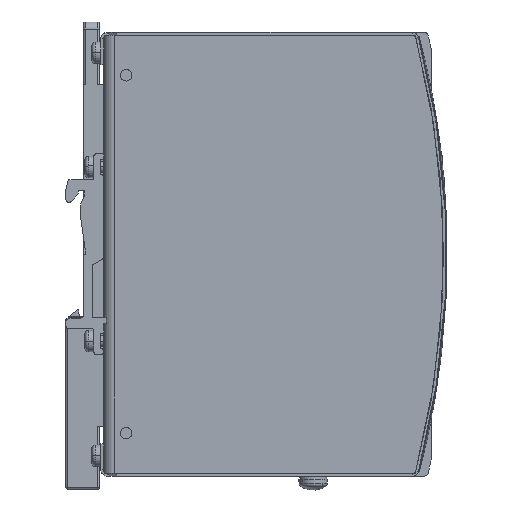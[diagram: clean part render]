
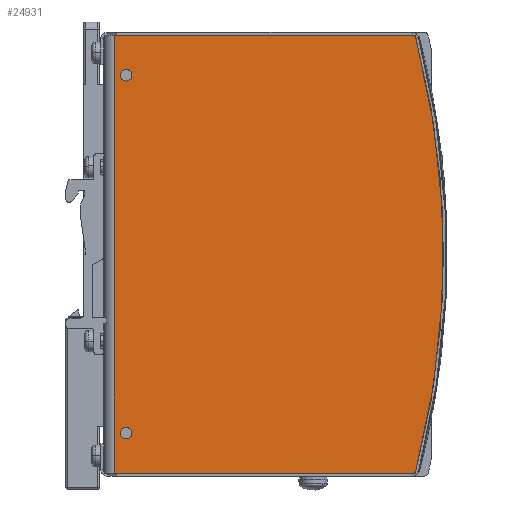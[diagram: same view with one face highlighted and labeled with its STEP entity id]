
A CAD part, left-side view. The second image highlights one B-rep face of the part: STEP entity #24931.
In plain terms, the highlighted planar face has unit normal (-1, 0, 0).
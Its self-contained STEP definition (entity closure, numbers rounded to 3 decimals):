
#3809 = CARTESIAN_POINT ( 'NONE',  ( -16., -87.079, 61.15 ) ) ;
#5927 = CIRCLE ( 'NONE', #70968, 240. ) ;
#6297 = CARTESIAN_POINT ( 'NONE',  ( -16., -3., -61.15 ) ) ;
#6685 = AXIS2_PLACEMENT_3D ( 'NONE', #13069, #47346, #31693 ) ;
#6687 = CARTESIAN_POINT ( 'NONE',  ( -16., -3., -61.15 ) ) ;
#6869 = EDGE_CURVE ( 'NONE', #26593, #56769, #58530, .T. ) ;
#7676 = CARTESIAN_POINT ( 'NONE',  ( -16., -4.7, -50. ) ) ;
#8883 = ORIENTED_EDGE ( 'NONE', *, *, #39230, .F. ) ;
#11220 = VERTEX_POINT ( 'NONE', #24990 ) ;
#13069 = CARTESIAN_POINT ( 'NONE',  ( -16., -6.3, 50. ) ) ;
#13795 = EDGE_CURVE ( 'NONE', #56769, #42908, #5927, .T. ) ;
#14753 = DIRECTION ( 'NONE',  ( 1., 0., 0. ) ) ;
#22720 = VERTEX_POINT ( 'NONE', #6687 ) ;
#24931 = ADVANCED_FACE ( 'NONE', ( #58345, #93902, #74678 ), #32779, .T. ) ;
#24974 = EDGE_CURVE ( 'NONE', #59923, #39348, #110680, .T. ) ;
#24990 = CARTESIAN_POINT ( 'NONE',  ( -16., -4.7, 50. ) ) ;
#26593 = VERTEX_POINT ( 'NONE', #69859 ) ;
#29453 = AXIS2_PLACEMENT_3D ( 'NONE', #94521, #14753, #49633 ) ;
#31084 = CARTESIAN_POINT ( 'NONE',  ( -16., -95., 0. ) ) ;
#31693 = DIRECTION ( 'NONE',  ( 0., 1., 0. ) ) ;
#31924 = VECTOR ( 'NONE', #93305, 1000. ) ;
#32359 = VERTEX_POINT ( 'NONE', #50376 ) ;
#32779 = PLANE ( 'NONE',  #80905 ) ;
#33742 = CARTESIAN_POINT ( 'NONE',  ( -16., -3., 61.15 ) ) ;
#33845 = DIRECTION ( 'NONE',  ( 1., 0., 0. ) ) ;
#35519 = CARTESIAN_POINT ( 'NONE',  ( -16., -6.3, -50. ) ) ;
#37207 = VECTOR ( 'NONE', #58758, 1000. ) ;
#38122 = AXIS2_PLACEMENT_3D ( 'NONE', #88080, #43720, #61772 ) ;
#38544 = ORIENTED_EDGE ( 'NONE', *, *, #83240, .F. ) ;
#38783 = EDGE_CURVE ( 'NONE', #32359, #11220, #114630, .T. ) ;
#39230 = EDGE_CURVE ( 'NONE', #26593, #22720, #57133, .T. ) ;
#39261 = CIRCLE ( 'NONE', #109978, 1.6 ) ;
#39348 = VERTEX_POINT ( 'NONE', #79267 ) ;
#39546 = ORIENTED_EDGE ( 'NONE', *, *, #101505, .T. ) ;
#40634 = LINE ( 'NONE', #6297, #81599 ) ;
#42243 = CARTESIAN_POINT ( 'NONE',  ( -16., 145., 0. ) ) ;
#42908 = VERTEX_POINT ( 'NONE', #3809 ) ;
#43704 = AXIS2_PLACEMENT_3D ( 'NONE', #35519, #103818, #51331 ) ;
#43720 = DIRECTION ( 'NONE',  ( -1., 0., 0. ) ) ;
#45690 = ORIENTED_EDGE ( 'NONE', *, *, #88827, .F. ) ;
#47346 = DIRECTION ( 'NONE',  ( 1., 0., 0. ) ) ;
#48251 = EDGE_LOOP ( 'NONE', ( #80505, #39546 ) ) ;
#49218 = DIRECTION ( 'NONE',  ( 0., 0.967, -0.255 ) ) ;
#49633 = DIRECTION ( 'NONE',  ( 0., 1., 0. ) ) ;
#49873 = CIRCLE ( 'NONE', #29453, 1.6 ) ;
#50376 = CARTESIAN_POINT ( 'NONE',  ( -16., -7.9, 50. ) ) ;
#51331 = DIRECTION ( 'NONE',  ( 0., 1., 0. ) ) ;
#56769 = VERTEX_POINT ( 'NONE', #31084 ) ;
#57133 = LINE ( 'NONE', #92731, #31924 ) ;
#58345 = FACE_BOUND ( 'NONE', #48251, .T. ) ;
#58530 = CIRCLE ( 'NONE', #38122, 240. ) ;
#58758 = DIRECTION ( 'NONE',  ( 0., -1., 0. ) ) ;
#59923 = VERTEX_POINT ( 'NONE', #7676 ) ;
#61772 = DIRECTION ( 'NONE',  ( 0., 0.967, -0.255 ) ) ;
#65904 = DIRECTION ( 'NONE',  ( 0., 0., -1. ) ) ;
#67394 = DIRECTION ( 'NONE',  ( 0., 0., 1. ) ) ;
#69852 = EDGE_LOOP ( 'NONE', ( #90434, #95247, #45690, #38544, #8883 ) ) ;
#69859 = CARTESIAN_POINT ( 'NONE',  ( -16., -87.079, -61.15 ) ) ;
#70968 = AXIS2_PLACEMENT_3D ( 'NONE', #42243, #112218, #49218 ) ;
#73662 = EDGE_LOOP ( 'NONE', ( #73906, #82326 ) ) ;
#73906 = ORIENTED_EDGE ( 'NONE', *, *, #86750, .T. ) ;
#74678 = FACE_OUTER_BOUND ( 'NONE', #69852, .T. ) ;
#76265 = LINE ( 'NONE', #86237, #37207 ) ;
#78654 = DIRECTION ( 'NONE',  ( 0., 1., 0. ) ) ;
#79267 = CARTESIAN_POINT ( 'NONE',  ( -16., -7.9, -50. ) ) ;
#80505 = ORIENTED_EDGE ( 'NONE', *, *, #24974, .T. ) ;
#80905 = AXIS2_PLACEMENT_3D ( 'NONE', #101476, #110270, #65904 ) ;
#81599 = VECTOR ( 'NONE', #67394, 1000. ) ;
#82326 = ORIENTED_EDGE ( 'NONE', *, *, #38783, .T. ) ;
#83240 = EDGE_CURVE ( 'NONE', #22720, #100155, #40634, .T. ) ;
#86237 = CARTESIAN_POINT ( 'NONE',  ( -16., -3., 61.15 ) ) ;
#86750 = EDGE_CURVE ( 'NONE', #11220, #32359, #49873, .T. ) ;
#88080 = CARTESIAN_POINT ( 'NONE',  ( -16., 145., 0. ) ) ;
#88827 = EDGE_CURVE ( 'NONE', #100155, #42908, #76265, .T. ) ;
#90434 = ORIENTED_EDGE ( 'NONE', *, *, #6869, .T. ) ;
#92731 = CARTESIAN_POINT ( 'NONE',  ( -16., -87.079, -61.15 ) ) ;
#93305 = DIRECTION ( 'NONE',  ( 0., 1., 0. ) ) ;
#93902 = FACE_BOUND ( 'NONE', #73662, .T. ) ;
#94521 = CARTESIAN_POINT ( 'NONE',  ( -16., -6.3, 50. ) ) ;
#95247 = ORIENTED_EDGE ( 'NONE', *, *, #13795, .T. ) ;
#100155 = VERTEX_POINT ( 'NONE', #33742 ) ;
#101476 = CARTESIAN_POINT ( 'NONE',  ( -16., 13.393, 0. ) ) ;
#101505 = EDGE_CURVE ( 'NONE', #39348, #59923, #39261, .T. ) ;
#103818 = DIRECTION ( 'NONE',  ( 1., 0., 0. ) ) ;
#106038 = CARTESIAN_POINT ( 'NONE',  ( -16., -6.3, -50. ) ) ;
#109978 = AXIS2_PLACEMENT_3D ( 'NONE', #106038, #33845, #78654 ) ;
#110270 = DIRECTION ( 'NONE',  ( -1., 0., 0. ) ) ;
#110680 = CIRCLE ( 'NONE', #43704, 1.6 ) ;
#112218 = DIRECTION ( 'NONE',  ( -1., 0., 0. ) ) ;
#114630 = CIRCLE ( 'NONE', #6685, 1.6 ) ;
